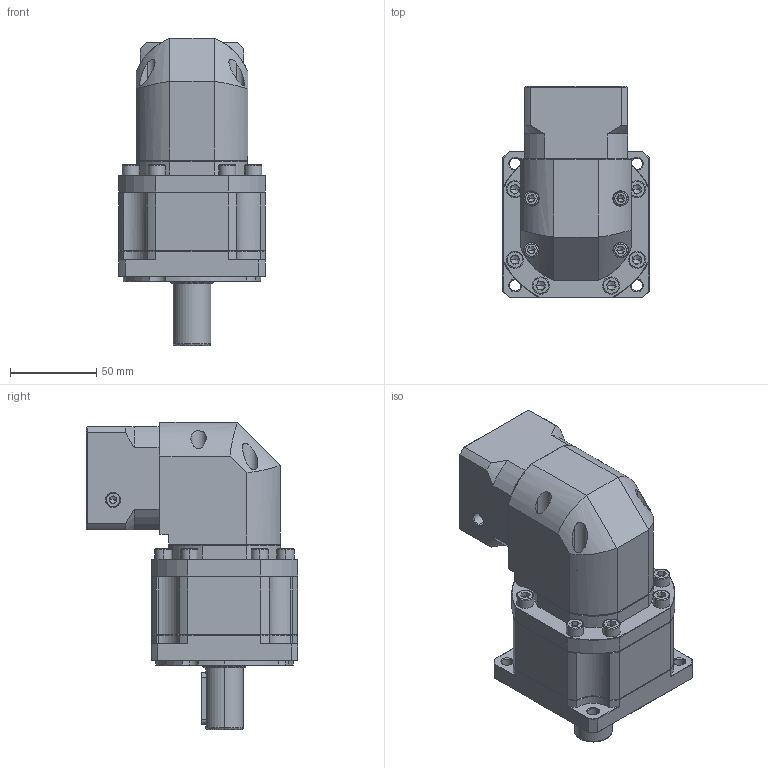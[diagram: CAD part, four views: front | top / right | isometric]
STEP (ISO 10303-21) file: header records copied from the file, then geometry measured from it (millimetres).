
FILE_DESCRIPTION (( 'STEP AP214' ), '1' );
FILE_NAME ('ZBR090-D22-L2-P2-14-50-70-M4.step', '2023-08-19T03:58:03', ( '' ), ( '' ), 'SwSTEP 2.0', 'SolidWorks 2016', '' );
FILE_SCHEMA (( 'AUTOMOTIVE_DESIGN' ));
Length unit declared in the file: millimetre
Products named in the file (1): ZBR090-D22-L2-P2-14-50-70-M4
Bounding box: 85 x 122.7 x 178.5 mm (x, y, z)
Volume: 801959.5 mm3; surface area: 99320.1 mm2
Topology: 5 solids, 5 shells, 2429 faces, 6430 edges, 4103 vertices
Faces by surface type: plane 1178, bspline 438, cylinder 437, cone 368, torus 8
Entity records: 127519 total; most frequent: CARTESIAN_POINT 44020, ORIENTED_EDGE 12768, DIRECTION 10231, EDGE_CURVE 6384, VERTEX_POINT 4103, LINE 4013, VECTOR 4013, AXIS2_PLACEMENT_3D 3109
